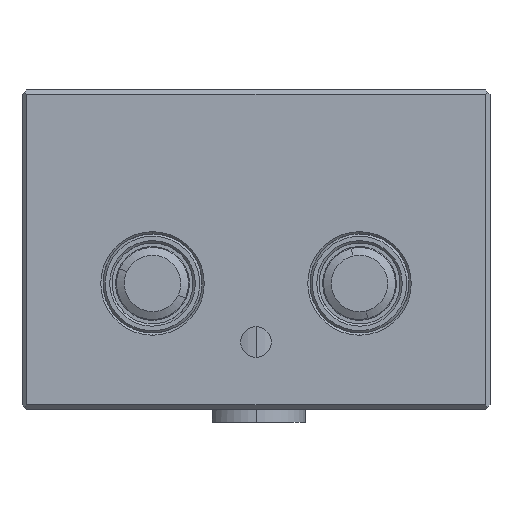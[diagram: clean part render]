
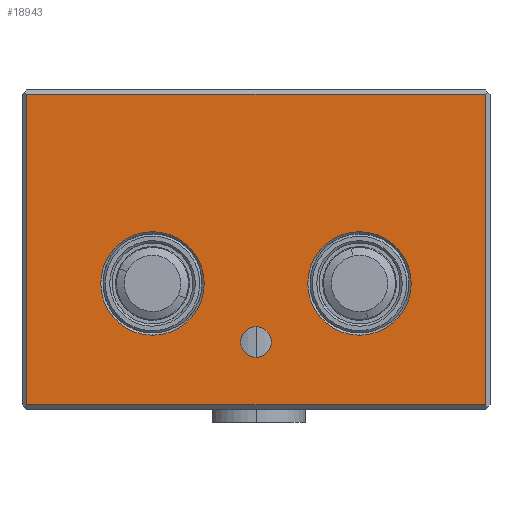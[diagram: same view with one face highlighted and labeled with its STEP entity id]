
A CAD part, front view. The second image highlights one B-rep face of the part: STEP entity #18943.
In plain terms, the highlighted planar face has unit normal (0, -1, 0).
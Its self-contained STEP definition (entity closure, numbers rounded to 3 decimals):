
#210 = CARTESIAN_POINT ( 'NONE',  ( 0., -55., 15. ) ) ;
#443 = EDGE_CURVE ( 'NONE', #30354, #25092, #16100, .T. ) ;
#507 = EDGE_LOOP ( 'NONE', ( #10396, #27486 ) ) ;
#1261 = DIRECTION ( 'NONE',  ( 0., 1., 0. ) ) ;
#1506 = VERTEX_POINT ( 'NONE', #23452 ) ;
#1747 = ORIENTED_EDGE ( 'NONE', *, *, #22218, .T. ) ;
#1783 = CARTESIAN_POINT ( 'NONE',  ( -52., -55., 1. ) ) ;
#1855 = PLANE ( 'NONE',  #22163 ) ;
#2387 = CIRCLE ( 'NONE', #28087, 11.5 ) ;
#2562 = DIRECTION ( 'NONE',  ( -1., 0., 0. ) ) ;
#2815 = LINE ( 'NONE', #15937, #21599 ) ;
#2880 = VERTEX_POINT ( 'NONE', #25363 ) ;
#2915 = EDGE_CURVE ( 'NONE', #22796, #7935, #24178, .T. ) ;
#3152 = EDGE_CURVE ( 'NONE', #7935, #22796, #12773, .T. ) ;
#3597 = ORIENTED_EDGE ( 'NONE', *, *, #23154, .T. ) ;
#3752 = EDGE_CURVE ( 'NONE', #17290, #15914, #2815, .T. ) ;
#3846 = ORIENTED_EDGE ( 'NONE', *, *, #19666, .T. ) ;
#3894 = CIRCLE ( 'NONE', #9171, 11.5 ) ;
#4189 = CARTESIAN_POINT ( 'NONE',  ( 51., -55., 1. ) ) ;
#4228 = DIRECTION ( 'NONE',  ( 0., 1., 0. ) ) ;
#4400 = FACE_OUTER_BOUND ( 'NONE', #7967, .T. ) ;
#4629 = DIRECTION ( 'NONE',  ( 0., 0., 1. ) ) ;
#4682 = DIRECTION ( 'NONE',  ( 0., 0., 1. ) ) ;
#4933 = EDGE_CURVE ( 'NONE', #26339, #9423, #2387, .T. ) ;
#5593 = EDGE_LOOP ( 'NONE', ( #7460, #27224 ) ) ;
#5905 = EDGE_LOOP ( 'NONE', ( #3846, #15316 ) ) ;
#7040 = CARTESIAN_POINT ( 'NONE',  ( -51., -55., 1. ) ) ;
#7460 = ORIENTED_EDGE ( 'NONE', *, *, #29701, .T. ) ;
#7935 = VERTEX_POINT ( 'NONE', #19686 ) ;
#7967 = EDGE_LOOP ( 'NONE', ( #3597, #21842, #1747, #19028 ) ) ;
#8411 = DIRECTION ( 'NONE',  ( 0., -1., 0. ) ) ;
#8495 = CIRCLE ( 'NONE', #8658, 11.5 ) ;
#8551 = CARTESIAN_POINT ( 'NONE',  ( 23., -55., 28. ) ) ;
#8658 = AXIS2_PLACEMENT_3D ( 'NONE', #23314, #28050, #28149 ) ;
#9171 = AXIS2_PLACEMENT_3D ( 'NONE', #20939, #16396, #4682 ) ;
#9423 = VERTEX_POINT ( 'NONE', #28960 ) ;
#9580 = CARTESIAN_POINT ( 'NONE',  ( -52., -55., 70. ) ) ;
#9736 = CARTESIAN_POINT ( 'NONE',  ( 0., -55., 18.4 ) ) ;
#10396 = ORIENTED_EDGE ( 'NONE', *, *, #3152, .F. ) ;
#11515 = DIRECTION ( 'NONE',  ( 0., 0., -1. ) ) ;
#12773 = CIRCLE ( 'NONE', #20051, 3.4 ) ;
#13341 = DIRECTION ( 'NONE',  ( 1., 0., 0. ) ) ;
#13825 = LINE ( 'NONE', #1783, #18591 ) ;
#13974 = FACE_BOUND ( 'NONE', #507, .T. ) ;
#15316 = ORIENTED_EDGE ( 'NONE', *, *, #25703, .T. ) ;
#15914 = VERTEX_POINT ( 'NONE', #16014 ) ;
#15937 = CARTESIAN_POINT ( 'NONE',  ( 51., -55., 71. ) ) ;
#16014 = CARTESIAN_POINT ( 'NONE',  ( 51., -55., 70. ) ) ;
#16050 = CARTESIAN_POINT ( 'NONE',  ( -52., -55., 71. ) ) ;
#16100 = LINE ( 'NONE', #27855, #17962 ) ;
#16396 = DIRECTION ( 'NONE',  ( 0., 1., 0. ) ) ;
#17290 = VERTEX_POINT ( 'NONE', #4189 ) ;
#17962 = VECTOR ( 'NONE', #11515, 1000. ) ;
#18289 = DIRECTION ( 'NONE',  ( 0., 0., 1. ) ) ;
#18591 = VECTOR ( 'NONE', #13341, 1000. ) ;
#18943 = ADVANCED_FACE ( 'NONE', ( #22797, #22459, #4400, #13974 ), #1855, .F. ) ;
#19028 = ORIENTED_EDGE ( 'NONE', *, *, #443, .T. ) ;
#19666 = EDGE_CURVE ( 'NONE', #2880, #1506, #23111, .T. ) ;
#19686 = CARTESIAN_POINT ( 'NONE',  ( 0., -55., 11.6 ) ) ;
#20051 = AXIS2_PLACEMENT_3D ( 'NONE', #22382, #8411, #22579 ) ;
#20095 = DIRECTION ( 'NONE',  ( 0., 0., 1. ) ) ;
#20939 = CARTESIAN_POINT ( 'NONE',  ( -23., -55., 28. ) ) ;
#21345 = DIRECTION ( 'NONE',  ( 0., 0., -1. ) ) ;
#21599 = VECTOR ( 'NONE', #18289, 1000. ) ;
#21842 = ORIENTED_EDGE ( 'NONE', *, *, #3752, .T. ) ;
#22163 = AXIS2_PLACEMENT_3D ( 'NONE', #16050, #4228, #4629 ) ;
#22218 = EDGE_CURVE ( 'NONE', #15914, #30354, #27451, .T. ) ;
#22382 = CARTESIAN_POINT ( 'NONE',  ( 0., -55., 15. ) ) ;
#22459 = FACE_BOUND ( 'NONE', #5905, .T. ) ;
#22579 = DIRECTION ( 'NONE',  ( 0., 0., -1. ) ) ;
#22796 = VERTEX_POINT ( 'NONE', #9736 ) ;
#22797 = FACE_BOUND ( 'NONE', #5593, .T. ) ;
#23111 = CIRCLE ( 'NONE', #23718, 11.5 ) ;
#23154 = EDGE_CURVE ( 'NONE', #25092, #17290, #13825, .T. ) ;
#23314 = CARTESIAN_POINT ( 'NONE',  ( 23., -55., 28. ) ) ;
#23452 = CARTESIAN_POINT ( 'NONE',  ( 23., -55., 39.5 ) ) ;
#23691 = DIRECTION ( 'NONE',  ( 0., -1., 0. ) ) ;
#23718 = AXIS2_PLACEMENT_3D ( 'NONE', #8551, #30020, #24985 ) ;
#24178 = CIRCLE ( 'NONE', #28911, 3.4 ) ;
#24985 = DIRECTION ( 'NONE',  ( 0., 0., 1. ) ) ;
#25092 = VERTEX_POINT ( 'NONE', #7040 ) ;
#25363 = CARTESIAN_POINT ( 'NONE',  ( 23., -55., 16.5 ) ) ;
#25703 = EDGE_CURVE ( 'NONE', #1506, #2880, #8495, .T. ) ;
#26335 = VECTOR ( 'NONE', #2562, 1000. ) ;
#26339 = VERTEX_POINT ( 'NONE', #28111 ) ;
#26978 = CARTESIAN_POINT ( 'NONE',  ( -51., -55., 70. ) ) ;
#27224 = ORIENTED_EDGE ( 'NONE', *, *, #4933, .T. ) ;
#27295 = CARTESIAN_POINT ( 'NONE',  ( -23., -55., 28. ) ) ;
#27451 = LINE ( 'NONE', #9580, #26335 ) ;
#27486 = ORIENTED_EDGE ( 'NONE', *, *, #2915, .F. ) ;
#27855 = CARTESIAN_POINT ( 'NONE',  ( -51., -55., 71. ) ) ;
#28050 = DIRECTION ( 'NONE',  ( 0., 1., 0. ) ) ;
#28087 = AXIS2_PLACEMENT_3D ( 'NONE', #27295, #1261, #20095 ) ;
#28111 = CARTESIAN_POINT ( 'NONE',  ( -23., -55., 39.5 ) ) ;
#28149 = DIRECTION ( 'NONE',  ( 0., 0., 1. ) ) ;
#28911 = AXIS2_PLACEMENT_3D ( 'NONE', #210, #23691, #21345 ) ;
#28960 = CARTESIAN_POINT ( 'NONE',  ( -23., -55., 16.5 ) ) ;
#29701 = EDGE_CURVE ( 'NONE', #9423, #26339, #3894, .T. ) ;
#30020 = DIRECTION ( 'NONE',  ( 0., 1., 0. ) ) ;
#30354 = VERTEX_POINT ( 'NONE', #26978 ) ;
